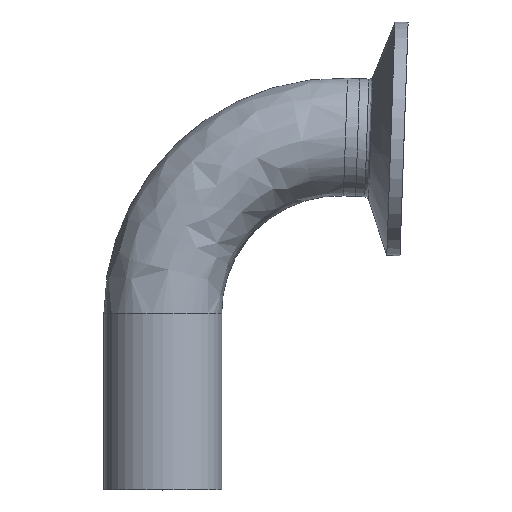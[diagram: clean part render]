
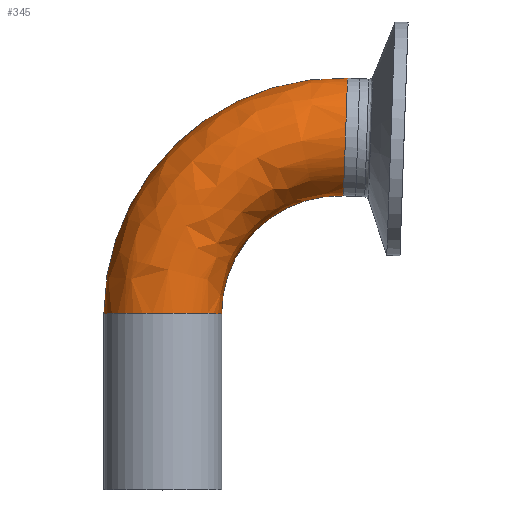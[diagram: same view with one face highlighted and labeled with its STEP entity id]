
A CAD part, top view. The second image highlights one B-rep face of the part: STEP entity #345.
In plain terms, the highlighted free-form (B-spline) face has degree [3, 3] with [4, 4] control points.
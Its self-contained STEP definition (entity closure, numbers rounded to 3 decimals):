
#47 = CARTESIAN_POINT ( 'NONE',  ( 9.303, 89.891, 0. ) ) ;
#85 = AXIS2_PLACEMENT_3D ( 'NONE', #1106, #1095, #1088 ) ;
#86 = CARTESIAN_POINT ( 'NONE',  ( 38.1, 38.055, 0. ) ) ;
#99 = CARTESIAN_POINT ( 'NONE',  ( 38.986, 63.439, 0. ) ) ;
#153 = ORIENTED_EDGE ( 'NONE', *, *, #1638, .T. ) ;
#270 = AXIS2_PLACEMENT_3D ( 'NONE', #1375, #1370, #1335 ) ;
#282 = VERTEX_POINT ( 'NONE', #1515 ) ;
#309 = CARTESIAN_POINT ( 'NONE',  ( -12.7, 38.055, 0. ) ) ;
#318 =( BOUNDED_SURFACE ( )  B_SPLINE_SURFACE ( 3, 3, ( 
 ( #309, #1441, #47, #1358 ),
 ( #1386, #1408, #1663, #673 ),
 ( #1203, #1376, #882, #1595 ),
 ( #1232, #1159, #1423, #1703 ) ),
 .UNSPECIFIED., .F., .F., .F. ) 
 B_SPLINE_SURFACE_WITH_KNOTS ( ( 4, 4 ),
 ( 4, 4 ),
 ( 0., 1. ),
 ( 0., 1. ),
 .UNSPECIFIED. ) 
 GEOMETRIC_REPRESENTATION_ITEM ( )  RATIONAL_B_SPLINE_SURFACE ( (
 ( 1., 0.796, 0.796, 1.),
 ( 0.333, 0.265, 0.265, 0.333),
 ( 0.333, 0.265, 0.265, 0.333),
 ( 1., 0.796, 0.796, 1.) ) ) 
 REPRESENTATION_ITEM ( '' )  SURFACE ( )  );
#329 = CIRCLE ( 'NONE', #270, 12.7 ) ;
#345 = ADVANCED_FACE ( 'NONE', ( #861 ), #318, .T. ) ;
#399 = DIRECTION ( 'NONE',  ( 0., 0., -1. ) ) ;
#408 = DIRECTION ( 'NONE',  ( -1., 0., 0. ) ) ;
#436 = EDGE_CURVE ( 'NONE', #282, #495, #1187, .T. ) ;
#495 = VERTEX_POINT ( 'NONE', #1416 ) ;
#633 = ORIENTED_EDGE ( 'NONE', *, *, #1669, .T. ) ;
#673 = CARTESIAN_POINT ( 'NONE',  ( 39.873, 88.824, 25.4 ) ) ;
#715 = CARTESIAN_POINT ( 'NONE',  ( 38.1, 38.055, 0. ) ) ;
#734 = EDGE_LOOP ( 'NONE', ( #153, #1477, #633, #1418 ) ) ;
#783 = CIRCLE ( 'NONE', #85, 12.7 ) ;
#861 = FACE_OUTER_BOUND ( 'NONE', #734, .T. ) ;
#882 = CARTESIAN_POINT ( 'NONE',  ( 23.702, 63.973, 25.4 ) ) ;
#907 = AXIS2_PLACEMENT_3D ( 'NONE', #715, #1200, #1233 ) ;
#913 = VERTEX_POINT ( 'NONE', #1570 ) ;
#937 = AXIS2_PLACEMENT_3D ( 'NONE', #86, #399, #408 ) ;
#1088 = DIRECTION ( 'NONE',  ( -1., 0., 0. ) ) ;
#1095 = DIRECTION ( 'NONE',  ( 0., 1., 0. ) ) ;
#1106 = CARTESIAN_POINT ( 'NONE',  ( 0., 38.055, 0. ) ) ;
#1159 = CARTESIAN_POINT ( 'NONE',  ( 12.7, 53.349, 0. ) ) ;
#1187 = CIRCLE ( 'NONE', #937, 50.8 ) ;
#1200 = DIRECTION ( 'NONE',  ( 0., 0., -1. ) ) ;
#1203 = CARTESIAN_POINT ( 'NONE',  ( 12.7, 38.055, 25.4 ) ) ;
#1232 = CARTESIAN_POINT ( 'NONE',  ( 12.7, 38.055, 0. ) ) ;
#1233 = DIRECTION ( 'NONE',  ( -1., 0., 0. ) ) ;
#1335 = DIRECTION ( 'NONE',  ( 0.035, 0.999, 0. ) ) ;
#1358 = CARTESIAN_POINT ( 'NONE',  ( 39.873, 88.824, 0. ) ) ;
#1370 = DIRECTION ( 'NONE',  ( -0.999, 0.035, 0. ) ) ;
#1375 = CARTESIAN_POINT ( 'NONE',  ( 39.43, 76.131, 0. ) ) ;
#1376 = CARTESIAN_POINT ( 'NONE',  ( 12.7, 53.349, 25.4 ) ) ;
#1386 = CARTESIAN_POINT ( 'NONE',  ( -12.7, 38.055, 25.4 ) ) ;
#1408 = CARTESIAN_POINT ( 'NONE',  ( -12.7, 68.643, 25.4 ) ) ;
#1416 = CARTESIAN_POINT ( 'NONE',  ( 39.873, 88.824, 0. ) ) ;
#1418 = ORIENTED_EDGE ( 'NONE', *, *, #436, .F. ) ;
#1419 = EDGE_CURVE ( 'NONE', #913, #1674, #1701, .T. ) ;
#1423 = CARTESIAN_POINT ( 'NONE',  ( 23.702, 63.973, 0. ) ) ;
#1441 = CARTESIAN_POINT ( 'NONE',  ( -12.7, 68.643, 0. ) ) ;
#1477 = ORIENTED_EDGE ( 'NONE', *, *, #1419, .T. ) ;
#1515 = CARTESIAN_POINT ( 'NONE',  ( -12.7, 38.055, 0. ) ) ;
#1570 = CARTESIAN_POINT ( 'NONE',  ( 12.7, 38.055, 0. ) ) ;
#1595 = CARTESIAN_POINT ( 'NONE',  ( 38.986, 63.439, 25.4 ) ) ;
#1638 = EDGE_CURVE ( 'NONE', #282, #913, #783, .T. ) ;
#1663 = CARTESIAN_POINT ( 'NONE',  ( 9.303, 89.891, 25.4 ) ) ;
#1669 = EDGE_CURVE ( 'NONE', #1674, #495, #329, .T. ) ;
#1674 = VERTEX_POINT ( 'NONE', #99 ) ;
#1701 = CIRCLE ( 'NONE', #907, 25.4 ) ;
#1703 = CARTESIAN_POINT ( 'NONE',  ( 38.986, 63.439, 0. ) ) ;
